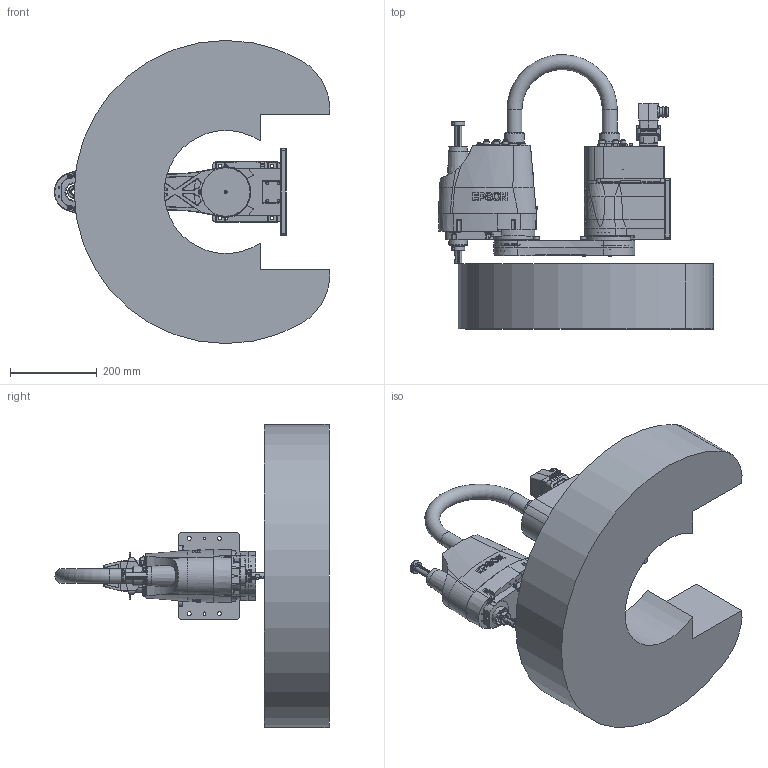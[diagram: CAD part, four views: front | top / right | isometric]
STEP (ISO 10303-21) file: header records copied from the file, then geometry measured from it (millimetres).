
FILE_DESCRIPTION( ( 'STEP AP214' ), '1' );
FILE_NAME( 'C:/Users/9607552/Desktop/GX4-A/GX4-A351EMA-W.stp', '2023-04-07T05:09:06', ( '' ), ( '' ), ' ', 'PARTsolutions', ' ' );
FILE_SCHEMA( ( 'AUTOMOTIVE_DESIGN { 1 0 10303 214 1 1 1 1 }' ) );
Length unit declared in the file: millimetre
Products named in the file (8): GX4-A351EMA-W; _A301SM-b; _A351SM_J1_ARM; _A251S-a; _A351SM_CONDUIT; _A251S; _Angle; _GX4-29_WS
Assembly tree (7 placements, depth 2):
  GX4-A351EMA-W
    _A301SM-b
    _A351SM_J1_ARM
    _A251S-a
    _A351SM_CONDUIT
    _A251S
    _Angle
    _GX4-29_WS
Bounding box: 635.24 x 632.93 x 700 mm (x, y, z)
Volume: 44906080.4 mm3; surface area: 1685260.5 mm2
Topology: 7 solids, 7 shells, 3618 faces, 9137 edges, 5978 vertices
Faces by surface type: plane 2127, cylinder 991, cone 310, bspline 99, torus 90, sphere 1
Full cylindrical faces by diameter (mm): 1 x30, 1.13 x55, 1.18 x55, 2.013 x4, 2.459 x4, 2.5 x16, 3 x34, 3.2 x4, 3.242 x1, 3.3 x30, 3.4 x32, 3.5 x12, 4 x8, 4.5 x20, 4.8 x8, 4.917 x4, 5.34 x8, 5.4 x10, 5.5 x24, 5.6 x4, 5.68 x4, 6 x21, 6.5 x12, 6.647 x7, 6.8 x4, 7 x37, 7.647 x4, 7.8 x4, 8 x12, 9 x8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
Entity records: 139138 total; most frequent: CARTESIAN_POINT 28027, ORIENTED_EDGE 16428, DIRECTION 15979, EDGE_CURVE 8214, AXIS2_PLACEMENT_3D 6044, VERTEX_POINT 5849, EDGE_LOOP 5070, FACE_OUTER_BOUND 4231
